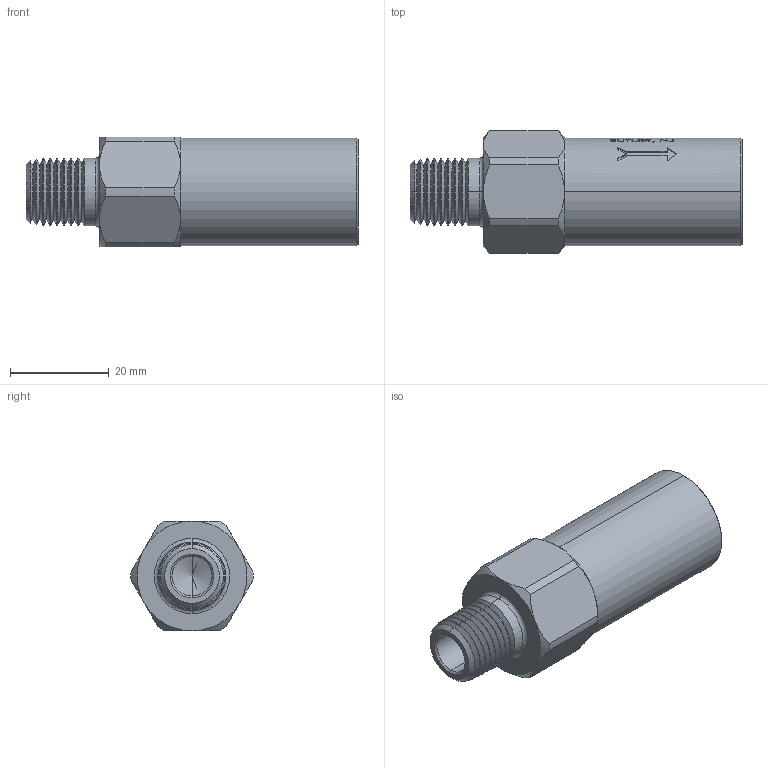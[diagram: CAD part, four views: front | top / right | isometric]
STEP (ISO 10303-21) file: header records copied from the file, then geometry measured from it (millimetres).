
FILE_DESCRIPTION (( 'STEP AP203' ), '1' );
FILE_NAME ('IRV-4.STEP', '2020-08-12T13:55:29', ( '' ), ( '' ), 'SwSTEP 2.0', 'SolidWorks 2020', '' );
FILE_SCHEMA (( 'CONFIG_CONTROL_DESIGN' ));
Length unit declared in the file: inch
Products named in the file (2): Part14^IRV-4; IRV-4
Assembly tree (1 placements, depth 2):
  IRV-4
    Part14^IRV-4
Bounding box: 67.26 x 24.76 x 22.23 mm (x, y, z)
Volume: 18406.2 mm3; surface area: 6372 mm2
Topology: 1 solids, 1 shells, 335 faces, 836 edges, 526 vertices
Faces by surface type: plane 140, cone 82, bspline 70, cylinder 41, torus 2
Entity records: 14725 total; most frequent: CARTESIAN_POINT 7102, ORIENTED_EDGE 1664, DIRECTION 1344, EDGE_CURVE 832, VERTEX_POINT 526, AXIS2_PLACEMENT_3D 505, EDGE_LOOP 362, ADVANCED_FACE 335
